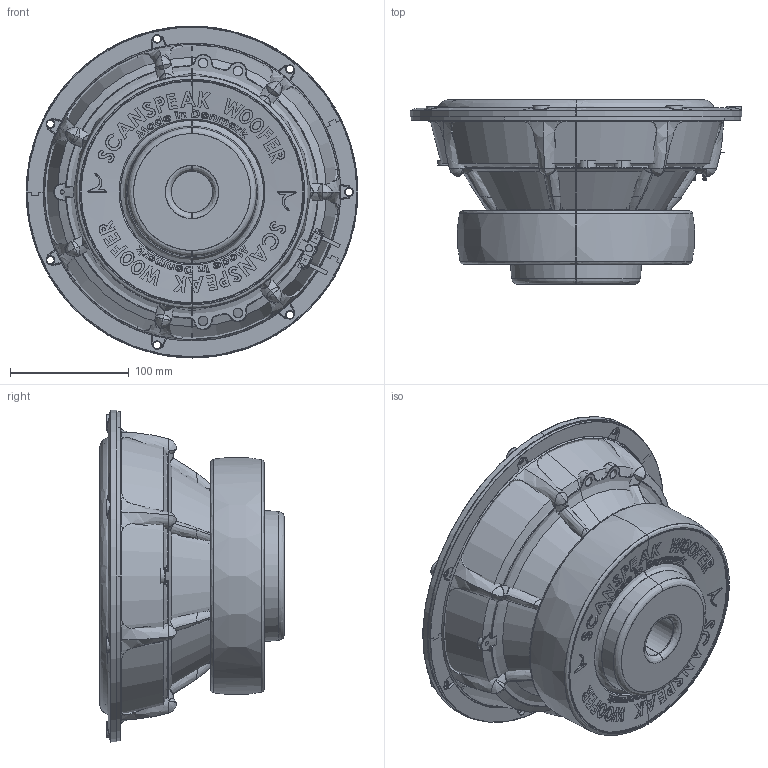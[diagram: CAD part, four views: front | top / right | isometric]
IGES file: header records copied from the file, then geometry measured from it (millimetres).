
Start section: SolidWorks IGES file using analytic representation for surfaces
Global section: file name: W:\TT\28W\28W-4878T00.IGS; native system: SolidWorks 2019; preprocessor: SolidWorks 2019; author: mhn; date: 201217.125826; units: millimetre
Bounding box: 279.88 x 155.6 x 279.88 mm (x, y, z)
Surface area: 670691.8 mm2 (no closed solid volume)
Topology: 0 solids, 0 shells, 1531 faces, 26581 edges, 26472 vertices
Faces by surface type: bspline 1097, revolution 434
